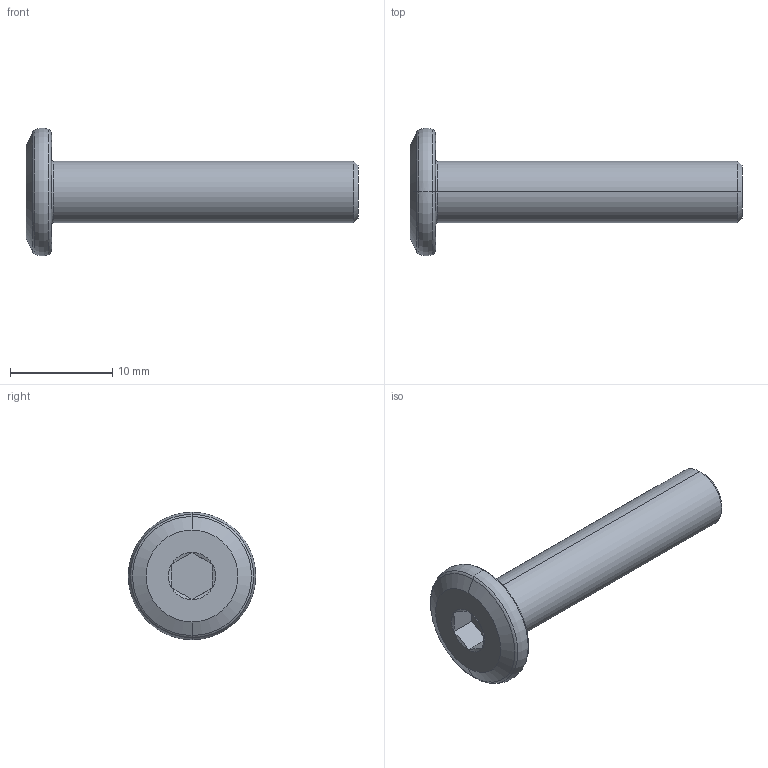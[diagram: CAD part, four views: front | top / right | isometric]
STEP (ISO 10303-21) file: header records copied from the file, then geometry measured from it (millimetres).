
FILE_DESCRIPTION (( 'STEP AP203' ), '1' );
FILE_NAME ('LGD-304D-M6x30.STEP', '2026-08-13T07:58:03', ( '' ), ( '' ), 'SwSTEP 2.0', 'SolidWorks 2020', '' );
FILE_SCHEMA (( 'CONFIG_CONTROL_DESIGN' ));
Length unit declared in the file: millimetre
Products named in the file (1): LGD-304D-M6x30
Bounding box: 32.5 x 12.49 x 12.49 mm (x, y, z)
Volume: 1086.2 mm3; surface area: 893 mm2
Topology: 1 solids, 1 shells, 30 faces, 56 edges, 30 vertices
Faces by surface type: cone 10, plane 10, torus 8, cylinder 2
Entity records: 835 total; most frequent: CARTESIAN_POINT 151, DIRECTION 144, ORIENTED_EDGE 112, AXIS2_PLACEMENT_3D 63, EDGE_CURVE 56, EDGE_LOOP 32, CIRCLE 32, FACE_OUTER_BOUND 30
